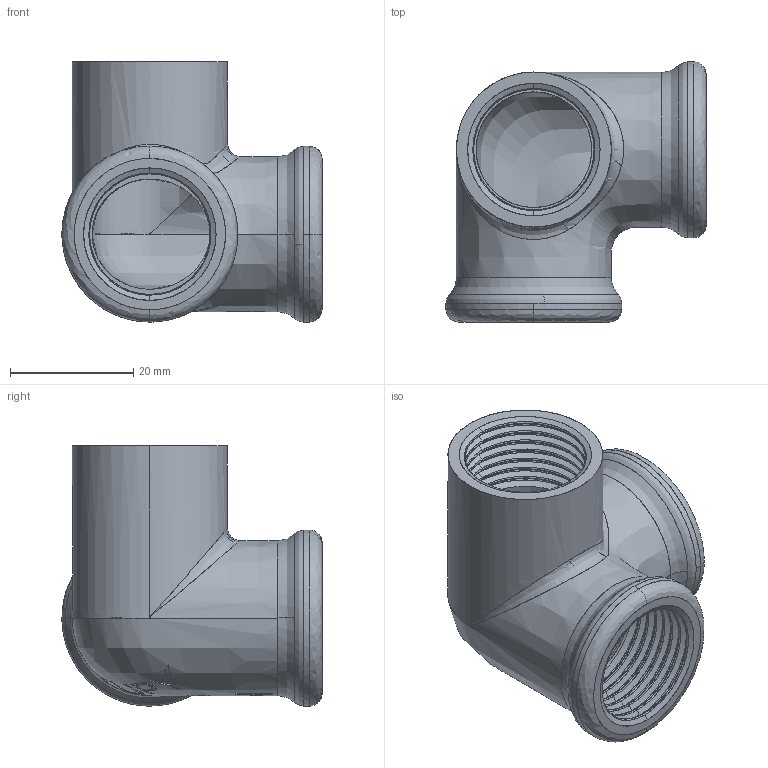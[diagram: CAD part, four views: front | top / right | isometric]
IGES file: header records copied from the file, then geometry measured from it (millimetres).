
Start section: SolidWorks IGES file using analytic representation for surfaces
Global section: file name: C:\Users\alan.martins\Documents\Tupy\2015\Modelamento Conexões\IGS\12-15-004.IGS; native system: SolidWorks 2012; preprocessor: SolidWorks 2012; author: alan.martins; date: 150817.110250; units: millimetre
Bounding box: 42.3 x 42.3 x 42.3 mm (x, y, z)
Surface area: 12336.5 mm2 (no closed solid volume)
Topology: 0 solids, 0 shells, 354 faces, 3205 edges, 3204 vertices
Faces by surface type: bspline 245, revolution 109
